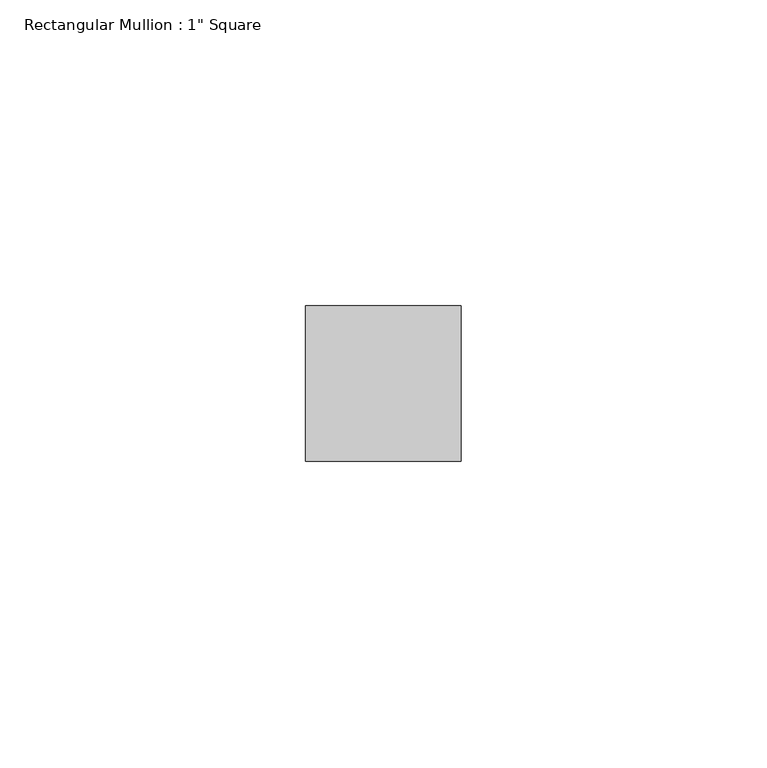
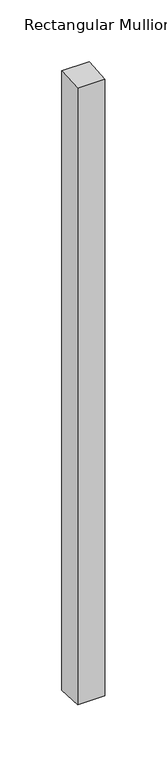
"""IFC4 building model written with IfcOpenShell, lengths in millimetres: member geometry."""

from ifc_helpers import new_model, si_unit, origin, place, context, project, spatial, faceted_brep, source, transform, mapped, element, save


def member_56cded33(model_context):
    return source(origin(), model_context, "Body", "Brep", [
        faceted_brep([(-25.4, 12.7, 0.746656), (0.0, 12.7, 0.7587172), (0.0, 12.7, -610.3587172), (-25.4, 12.7, -610.346656), (-25.4, -12.7, -0.7707784), (-25.4, -12.7, -608.8292216), (0.0, -12.7, -0.7587172), (0.0, -12.7, -608.8412828)], [[[0, 1, 2, 3]], [[4, 0, 3, 5]], [[6, 4, 5, 7]], [[1, 6, 7, 2]], [[1, 0, 4, 6]], [[2, 7, 5, 3]]]),
    ])


if __name__ == "__main__":
    model = new_model("IFC4")
    model_context = context("Model", 3, world=origin())
    ifc_project = project(units=[si_unit("LENGTHUNIT", "METRE", prefix="MILLI")], contexts=[model_context])
    site = spatial("IfcSite", under=ifc_project)
    building = spatial("IfcBuilding", under=site)
    placement = place(None, origin())
    member_shape = member_56cded33(model_context)
    element("IfcMember", 1, ObjectType="Rectangular Mullion : 1\" Square", at=placement, inside=building, context=model_context, shape_type="MappedRepresentation", body=[
        mapped(member_shape, transform((0.0, 0.0, 0.0), x_axis=(1.0, 0.0, 0.0), y_axis=(0.0, 1.0, 0.0), z_axis=(0.0, 0.0, 1.0))),
    ])
    save(model, "model.ifc")
